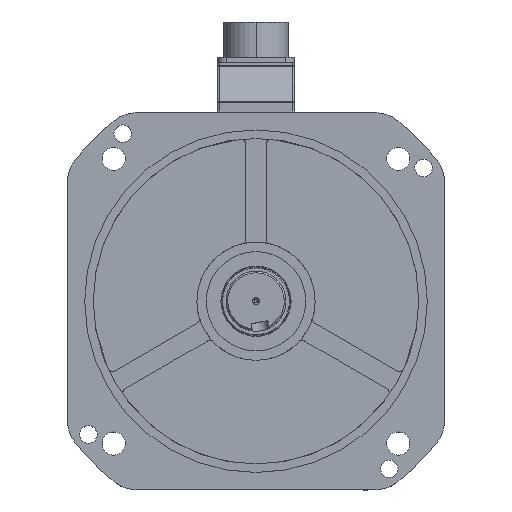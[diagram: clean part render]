
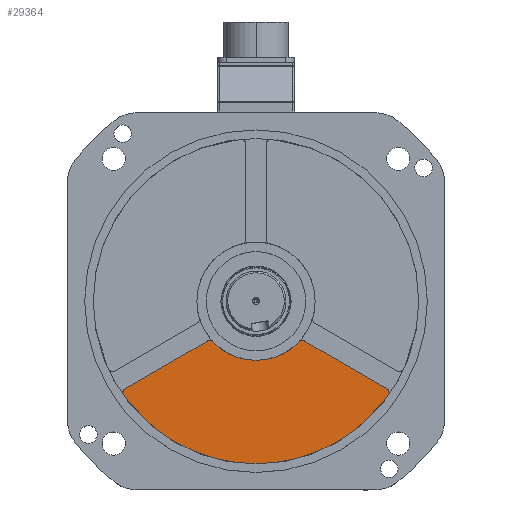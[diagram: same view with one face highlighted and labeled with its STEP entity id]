
A CAD part, top view. The second image highlights one B-rep face of the part: STEP entity #29364.
In plain terms, the highlighted planar face has unit normal (0, 0, 1).
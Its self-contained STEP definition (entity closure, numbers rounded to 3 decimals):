
#52 = AXIS2_PLACEMENT_3D ( 'NONE', #61732, #4188, #14316 ) ;
#2066 = VERTEX_POINT ( 'NONE', #9417 ) ;
#4039 = CARTESIAN_POINT ( 'NONE',  ( -74.792, 53.574, 16. ) ) ;
#4188 = DIRECTION ( 'NONE',  ( 0., 0., 1. ) ) ;
#4474 = CARTESIAN_POINT ( 'NONE',  ( 24.865, 23.917, 16. ) ) ;
#4553 = CIRCLE ( 'NONE', #43520, 3. ) ;
#4937 = VERTEX_POINT ( 'NONE', #36144 ) ;
#6797 = AXIS2_PLACEMENT_3D ( 'NONE', #40830, #35609, #68374 ) ;
#7840 = LINE ( 'NONE', #29093, #23318 ) ;
#8189 = EDGE_CURVE ( 'NONE', #4937, #13359, #39073, .T. ) ;
#8916 = ORIENTED_EDGE ( 'NONE', *, *, #60163, .T. ) ;
#9417 = CARTESIAN_POINT ( 'NONE',  ( 76.292, 50.976, 16. ) ) ;
#10193 = EDGE_CURVE ( 'NONE', #11523, #2066, #39672, .T. ) ;
#10724 = EDGE_CURVE ( 'NONE', #15582, #48005, #65116, .T. ) ;
#11523 = VERTEX_POINT ( 'NONE', #59295 ) ;
#11670 = ORIENTED_EDGE ( 'NONE', *, *, #8189, .T. ) ;
#11916 = ORIENTED_EDGE ( 'NONE', *, *, #10193, .T. ) ;
#12155 = CARTESIAN_POINT ( 'NONE',  ( 27.027, 25.996, 16. ) ) ;
#12328 = CIRCLE ( 'NONE', #30113, 3. ) ;
#13195 = DIRECTION ( 'NONE',  ( 0.866, 0.5, 0. ) ) ;
#13359 = VERTEX_POINT ( 'NONE', #33398 ) ;
#13868 = VECTOR ( 'NONE', #13195, 1000. ) ;
#13981 = FACE_OUTER_BOUND ( 'NONE', #59964, .T. ) ;
#14316 = DIRECTION ( 'NONE',  ( 1., 0., 0. ) ) ;
#14819 = EDGE_CURVE ( 'NONE', #59433, #24143, #7840, .T. ) ;
#15582 = VERTEX_POINT ( 'NONE', #4474 ) ;
#16906 = DIRECTION ( 'NONE',  ( 1., 0., 0. ) ) ;
#16966 = ORIENTED_EDGE ( 'NONE', *, *, #10724, .F. ) ;
#20019 = CIRCLE ( 'NONE', #62319, 3. ) ;
#20111 = CARTESIAN_POINT ( 'NONE',  ( -24.865, 23.917, 16. ) ) ;
#20214 = AXIS2_PLACEMENT_3D ( 'NONE', #48459, #25201, #67726 ) ;
#22996 = DIRECTION ( 'NONE',  ( 0., 0., 1. ) ) ;
#23318 = VECTOR ( 'NONE', #44431, 1000. ) ;
#24143 = VERTEX_POINT ( 'NONE', #45694 ) ;
#24339 = ORIENTED_EDGE ( 'NONE', *, *, #62156, .F. ) ;
#25194 = CIRCLE ( 'NONE', #54113, 3. ) ;
#25201 = DIRECTION ( 'NONE',  ( 0., 0., -1. ) ) ;
#26504 = CARTESIAN_POINT ( 'NONE',  ( -28.527, 23.398, 16. ) ) ;
#28061 = CIRCLE ( 'NONE', #20214, 95. ) ;
#28179 = DIRECTION ( 'NONE',  ( 0., 0., 1. ) ) ;
#28800 = EDGE_CURVE ( 'NONE', #2066, #52910, #20019, .T. ) ;
#29093 = CARTESIAN_POINT ( 'NONE',  ( 3., 5.196, 16. ) ) ;
#29364 = ADVANCED_FACE ( 'NONE', ( #13981 ), #46704, .T. ) ;
#29880 = ORIENTED_EDGE ( 'NONE', *, *, #46615, .T. ) ;
#30113 = AXIS2_PLACEMENT_3D ( 'NONE', #12155, #28179, #33395 ) ;
#31036 = EDGE_CURVE ( 'NONE', #59433, #48005, #25194, .T. ) ;
#33395 = DIRECTION ( 'NONE',  ( 1., 0., 0. ) ) ;
#33398 = CARTESIAN_POINT ( 'NONE',  ( -77.792, 53.574, 16. ) ) ;
#33908 = AXIS2_PLACEMENT_3D ( 'NONE', #56298, #61545, #52084 ) ;
#35609 = DIRECTION ( 'NONE',  ( 0., 0., 1. ) ) ;
#36144 = CARTESIAN_POINT ( 'NONE',  ( -77.231, 55.321, 16. ) ) ;
#37324 = ORIENTED_EDGE ( 'NONE', *, *, #31036, .T. ) ;
#39073 = CIRCLE ( 'NONE', #6797, 3. ) ;
#39672 = LINE ( 'NONE', #61293, #13868 ) ;
#40830 = CARTESIAN_POINT ( 'NONE',  ( -74.792, 53.574, 16. ) ) ;
#43520 = AXIS2_PLACEMENT_3D ( 'NONE', #4039, #57025, #62255 ) ;
#44240 = DIRECTION ( 'NONE',  ( 1., 0., 0. ) ) ;
#44431 = DIRECTION ( 'NONE',  ( -0.866, 0.5, 0. ) ) ;
#45694 = CARTESIAN_POINT ( 'NONE',  ( -76.292, 50.976, 16. ) ) ;
#46567 = ORIENTED_EDGE ( 'NONE', *, *, #28800, .T. ) ;
#46615 = EDGE_CURVE ( 'NONE', #15582, #11523, #12328, .T. ) ;
#46704 = PLANE ( 'NONE',  #52 ) ;
#48005 = VERTEX_POINT ( 'NONE', #20111 ) ;
#48459 = CARTESIAN_POINT ( 'NONE',  ( 0., 0., 16. ) ) ;
#49483 = CARTESIAN_POINT ( 'NONE',  ( -27.027, 25.996, 16. ) ) ;
#52084 = DIRECTION ( 'NONE',  ( 1., 0., 0. ) ) ;
#52910 = VERTEX_POINT ( 'NONE', #54162 ) ;
#54113 = AXIS2_PLACEMENT_3D ( 'NONE', #49483, #22996, #44240 ) ;
#54162 = CARTESIAN_POINT ( 'NONE',  ( 77.231, 55.321, 16. ) ) ;
#56298 = CARTESIAN_POINT ( 'NONE',  ( 0., 0., 16. ) ) ;
#57025 = DIRECTION ( 'NONE',  ( 0., 0., 1. ) ) ;
#57304 = ORIENTED_EDGE ( 'NONE', *, *, #14819, .F. ) ;
#59295 = CARTESIAN_POINT ( 'NONE',  ( 28.527, 23.398, 16. ) ) ;
#59433 = VERTEX_POINT ( 'NONE', #26504 ) ;
#59436 = CARTESIAN_POINT ( 'NONE',  ( 74.792, 53.574, 16. ) ) ;
#59964 = EDGE_LOOP ( 'NONE', ( #46567, #24339, #11670, #8916, #57304, #37324, #16966, #29880, #11916 ) ) ;
#60116 = DIRECTION ( 'NONE',  ( 0., 0., 1. ) ) ;
#60163 = EDGE_CURVE ( 'NONE', #13359, #24143, #4553, .T. ) ;
#61293 = CARTESIAN_POINT ( 'NONE',  ( -3., 5.196, 16. ) ) ;
#61545 = DIRECTION ( 'NONE',  ( 0., 0., 1. ) ) ;
#61732 = CARTESIAN_POINT ( 'NONE',  ( 0., 0., 16. ) ) ;
#62156 = EDGE_CURVE ( 'NONE', #4937, #52910, #28061, .T. ) ;
#62255 = DIRECTION ( 'NONE',  ( 1., 0., 0. ) ) ;
#62319 = AXIS2_PLACEMENT_3D ( 'NONE', #59436, #60116, #16906 ) ;
#65116 = CIRCLE ( 'NONE', #33908, 34.5 ) ;
#67726 = DIRECTION ( 'NONE',  ( 1., 0., 0. ) ) ;
#68374 = DIRECTION ( 'NONE',  ( 1., 0., 0. ) ) ;
